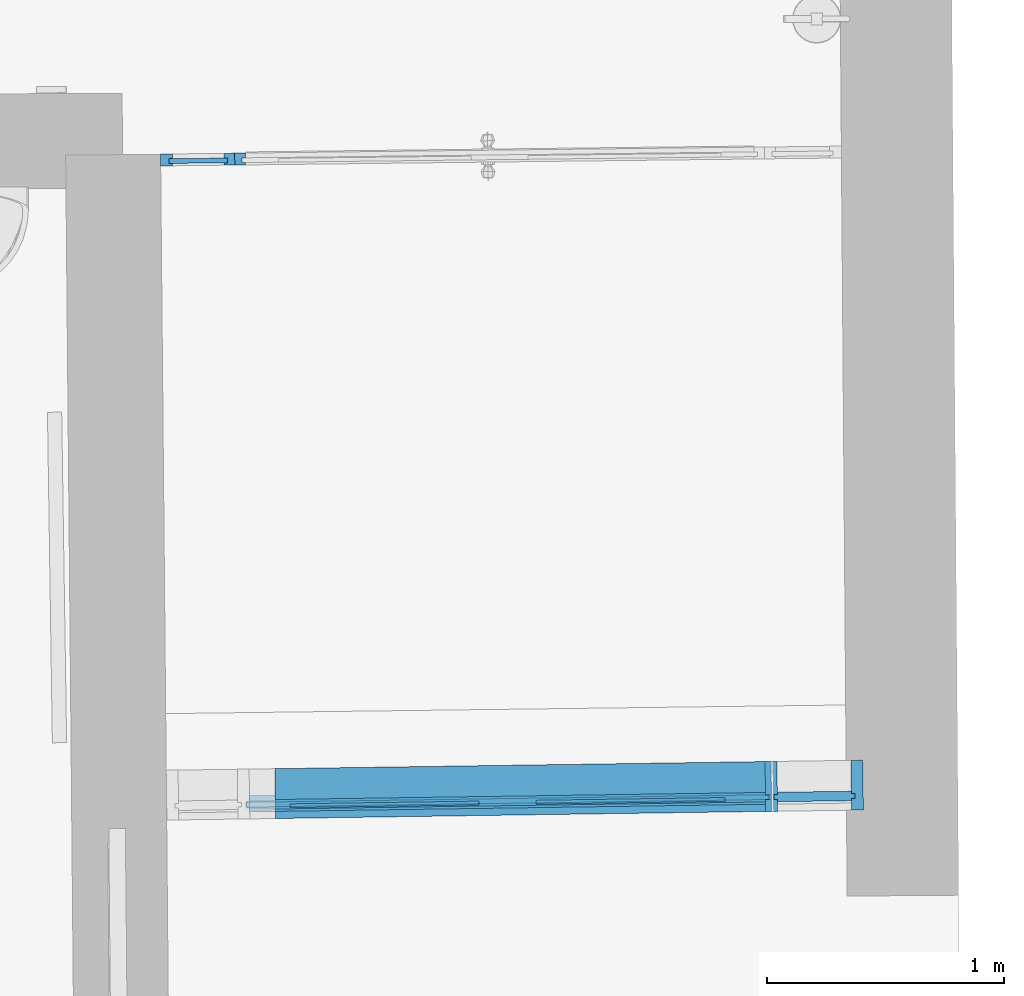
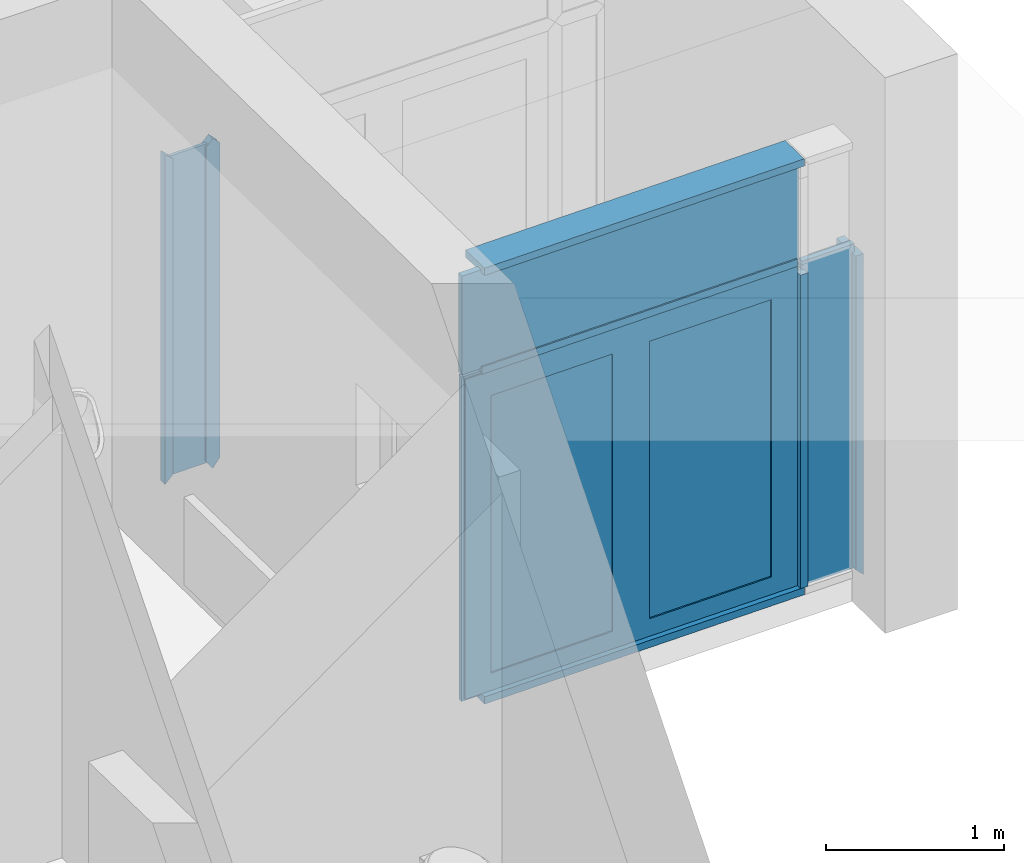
# One storey, part 126 of 196: 12 building element parts, 2 elements without a shape of their own.
"""IFC2X3 building model written with IfcOpenShell, lengths in metres."""

import ifcopenshell
import ifcopenshell.guid

model = None  # the IFC model being written
_history = None  # IfcOwnerHistory: only IFC2X3 demands one
_inside = {}  # id of a spatial element -> (the spatial element, [elements in it])
_under = {}  # id of a project, library or spatial element -> (it, [spatial elements below it])
_declared = {}  # id of a project -> (the project, [libraries it declares])
_typed = {}  # id of a type object -> (the type object, [elements of that type])
_made_of = {}  # id of a material, layer set ... -> (it, [elements and type objects made of it])


def new_model(schema):
    """Start an empty IFC model of exactly this schema.

    Asked for "IFC4X3", IfcOpenShell would pick the latest addendum, in which some entities
    have other attributes; the version numbers below select the first issue.
    IFC2X3 requires an IfcOwnerHistory on every rooted entity: one is made here for all.
    """
    global model, _history
    if schema == "IFC4X3":
        model = ifcopenshell.file(schema_version=(4, 3, 0, 0))
    else:
        model = ifcopenshell.file(schema=schema)
    _inside.clear()
    _under.clear()
    _declared.clear()
    _typed.clear()
    _made_of.clear()
    _history = None
    if model.schema == "IFC2X3":
        org = make("IfcOrganization", Name="unknown")
        user = make(
            "IfcPersonAndOrganization",
            ThePerson=make("IfcPerson", FamilyName="unknown"),
            TheOrganization=org,
        )
        app = make(
            "IfcApplication",
            ApplicationDeveloper=org,
            Version="unknown",
            ApplicationFullName="unknown",
            ApplicationIdentifier="unknown",
        )
        _history = make(
            "IfcOwnerHistory",
            OwningUser=user,
            OwningApplication=app,
            ChangeAction="ADDED",
            CreationDate=0,
        )
    return model


def make(cls, **values):
    """One entity of the class cls with the attributes given. An attribute that is None is left unset."""
    return model.create_entity(
        cls, **{name: value for name, value in values.items() if value is not None}
    )


def entity(cls, *values):
    """Any entity or typed value of the class cls, its attributes in the order of the schema. None: left unset."""
    e = model.create_entity(cls)
    for i, value in enumerate(values):
        if value is not None:
            e[i] = value
    return e


def rooted(cls, **values):
    """An entity with a GlobalId (a new one), such as an element, a storey or a relation."""
    return make(cls, GlobalId=ifcopenshell.guid.new(), OwnerHistory=_history, **values)


def si_unit(unit_type, name, prefix=None):
    """IfcSIUnit, for example si_unit("LENGTHUNIT", "METRE", prefix="MILLI")."""
    return make("IfcSIUnit", UnitType=unit_type, Prefix=prefix, Name=name)


def converted_unit(unit_type, name, factor, base, dimensions=None, offset=None):
    """IfcConversionBasedUnit, such as the inch: factor (a typed value) times the base unit."""
    return make(
        "IfcConversionBasedUnit"
        if offset is None
        else "IfcConversionBasedUnitWithOffset",
        ConversionOffset=offset,
        Dimensions=None
        if dimensions is None
        else entity("IfcDimensionalExponents", *dimensions),
        UnitType=unit_type,
        Name=name,
        ConversionFactor=make(
            "IfcMeasureWithUnit", ValueComponent=factor, UnitComponent=base
        ),
    )


def derived_unit(unit_type, elements):
    """IfcDerivedUnit: a product of units, each with its exponent."""
    return make(
        "IfcDerivedUnit",
        Elements=[
            make("IfcDerivedUnitElement", Unit=unit, Exponent=power)
            for unit, power in elements
        ],
        UnitType=unit_type,
    )


def money_unit(currency):
    """IfcMonetaryUnit."""
    return make("IfcMonetaryUnit", Currency=currency)


def assignment(units):
    """IfcUnitAssignment: the units of a project."""
    return None if units is None else make("IfcUnitAssignment", Units=units)


def point(xyz):
    """IfcCartesianPoint."""
    return None if xyz is None else make("IfcCartesianPoint", Coordinates=xyz)


def direction(xyz):
    """IfcDirection."""
    return None if xyz is None else make("IfcDirection", DirectionRatios=xyz)


def frame(location, z_axis=None, x_axis=None):
    """IfcAxis2Placement3D, a coordinate frame: its origin and axes. An axis left out is left unset."""
    return make(
        "IfcAxis2Placement3D",
        Location=point(location),
        Axis=direction(z_axis),
        RefDirection=direction(x_axis),
    )


def origin_with_axes():
    """The frame at (0, 0, 0) with the z axis (0, 0, 1) and the x axis (1, 0, 0) written out."""
    return frame((0.0, 0.0, 0.0), z_axis=(0.0, 0.0, 1.0), x_axis=(1.0, 0.0, 0.0))


def place(relative_to, where):
    """IfcLocalPlacement: puts the frame where relative to a parent placement (None: the world)."""
    return make(
        "IfcLocalPlacement", PlacementRelTo=relative_to, RelativePlacement=where
    )


def context(
    kind, dimensions, precision=None, world=None, true_north=None, identifier=None
):
    """IfcGeometricRepresentationContext, for example the 3D "Model" context."""
    return make(
        "IfcGeometricRepresentationContext",
        ContextIdentifier=identifier,
        ContextType=kind,
        CoordinateSpaceDimension=dimensions,
        Precision=precision,
        WorldCoordinateSystem=world,
        TrueNorth=true_north,
    )


def subcontext(parent, identifier, kind, view, scale=None):
    """IfcGeometricRepresentationSubContext, for example "Body" below "Model"."""
    return make(
        "IfcGeometricRepresentationSubContext",
        ContextIdentifier=identifier,
        ContextType=kind,
        ParentContext=parent,
        TargetScale=scale,
        TargetView=view,
    )


def project(units=None, contexts=None):
    """IfcProject with its units and contexts."""
    return rooted(
        "IfcProject",
        Name="project",
        RepresentationContexts=contexts,
        UnitsInContext=assignment(units),
    )


def spatial(cls, under=None, at=None, **own):
    """A site, building, storey or space (cls), placed at a placement, below another one or the project."""
    s = rooted(cls, ObjectPlacement=at, **own)
    if under is not None:
        _under.setdefault(under.id(), (under, []))[1].append(s)
    return s


def faces_of(points, faces, orient=None, outer=None):
    """IfcFace entities. A face is a list of loops; a loop is a list of indices into points, from 0.

    orient and outer hold one flag for each loop. By default every Orientation is true, the
    first loop of a face is its IfcFaceOuterBound and the others are IfcFaceBound.
    """
    made = []
    for i, loops in enumerate(faces):
        bounds = []
        for j, loop in enumerate(loops):
            is_outer = j == 0 if outer is None else outer[i][j]
            bounds.append(
                make(
                    "IfcFaceOuterBound" if is_outer else "IfcFaceBound",
                    Bound=make("IfcPolyLoop", Polygon=[points[k] for k in loop]),
                    Orientation=True if orient is None else orient[i][j],
                )
            )
        made.append(make("IfcFace", Bounds=bounds))
    return made


def open_shell(faces, orient=None, outer=None):
    """The faces of one IfcOpenShell. surface_model builds it on its shared points."""
    return ("IfcOpenShell", faces, orient, outer)


def faceted_brep(points, faces, orient=None, outer=None, voids=None):
    """IfcFacetedBrep: a solid bounded by flat faces; with voids (closed shells), ...WithVoids."""
    shared = [point(p) for p in points]
    hull = make("IfcClosedShell", CfsFaces=faces_of(shared, faces, orient, outer))
    if voids is None:
        return make("IfcFacetedBrep", Outer=hull)
    return make(
        "IfcFacetedBrepWithVoids",
        Outer=hull,
        Voids=[
            make(cls, CfsFaces=faces_of(shared, fs, o, b)) for cls, fs, o, b in voids
        ],
    )


def surface_model(cls, points, shells):
    """IfcFaceBasedSurfaceModel or IfcShellBasedSurfaceModel (cls): surfaces that need not close."""
    shared = [point(p) for p in points]
    made = [make(c, CfsFaces=faces_of(shared, fs, o, b)) for c, fs, o, b in shells]
    if cls == "IfcFaceBasedSurfaceModel":
        return make(cls, FbsmFaces=made)
    return make(cls, SbsmBoundary=made)


def shape(context_of_items, identifier, shape_type, items):
    """IfcShapeRepresentation: the items that make up one representation, for example the "Body"."""
    return make(
        "IfcShapeRepresentation",
        ContextOfItems=context_of_items,
        RepresentationIdentifier=identifier,
        RepresentationType=shape_type,
        Items=items,
    )


def material(Name=None, Category=None):
    """IfcMaterial."""
    return make("IfcMaterial", Name=Name, Category=Category)


def made_of(thing, what):
    """Note that an element or type object is made of a material, layer set ...; save() writes the relation."""
    if what is not None:
        _made_of.setdefault(what.id(), (what, []))[1].append(thing)
    return thing


def type_object(cls, material=None, **own):
    """A type object (cls), such as IfcWallType, which elements share."""
    return made_of(rooted(cls, **own), material)


def element(
    cls,
    number,
    at=None,
    inside=None,
    cuts=None,
    type_object=None,
    material=None,
    context=None,
    identifier="Body",
    shape_type=None,
    held_by="IfcProductDefinitionShape",
    body=None,
    shapes=None,
    **own,
):
    """One element of the class cls, such as IfcWall. Its Tag is "e" and its number.

    at: its placement. inside: the storey or other place that contains it. cuts: it is an
    opening in that element (IfcRelVoidsElement). A single representation is given by context,
    identifier, shape_type and body (its items); several are given by shapes. held_by: the class
    of the entity that holds the representations. save() writes the other relations.
    """
    e = rooted(cls, Tag="e%d" % number, ObjectPlacement=at, **own)
    if body is not None:
        shapes = [shape(context, identifier, shape_type, body)]
    if shapes is not None:
        e.Representation = make(held_by, Representations=shapes)
    if inside is not None:
        _inside.setdefault(inside.id(), (inside, []))[1].append(e)
    if cuts is not None:
        rooted(
            "IfcRelVoidsElement", RelatingBuildingElement=cuts, RelatedOpeningElement=e
        )
    if type_object is not None:
        _typed.setdefault(type_object.id(), (type_object, []))[1].append(e)
    return made_of(e, material)


def aggregate(whole, parts):
    """IfcRelAggregates: a whole, such as a stair, and the parts it consists of."""
    return rooted("IfcRelAggregates", RelatingObject=whole, RelatedObjects=parts)


def save(model, path):
    """Write the relations noted so far, then the file.

    IfcRelAggregates (storeys below a building ...), IfcRelContainedInSpatialStructure (elements
    in a storey), IfcRelDefinesByType, IfcRelAssociatesMaterial and IfcRelDeclares: one each for
    every whole, place, type object, material and project.
    """
    for whole, parts in _under.values():
        aggregate(whole, parts)
    for where, things in _inside.values():
        rooted(
            "IfcRelContainedInSpatialStructure",
            RelatedElements=things,
            RelatingStructure=where,
        )
    for kind, things in _typed.values():
        rooted("IfcRelDefinesByType", RelatedObjects=things, RelatingType=kind)
    for what, things in _made_of.values():
        rooted("IfcRelAssociatesMaterial", RelatedObjects=things, RelatingMaterial=what)
    for by, libraries in _declared.values():
        rooted("IfcRelDeclares", RelatingContext=by, RelatedDefinitions=libraries)
    model.write(path)


model = new_model("IFC2X3")

# Units and contexts
model_context = context("Model", 3, precision=1e-05, world=origin_with_axes(), true_north=direction((0.0, 1.0)))
body_context = subcontext(model_context, "Body", "Model", "MODEL_VIEW")
ifc_project = project(units=[si_unit("LENGTHUNIT", "METRE"), si_unit("AREAUNIT", "SQUARE_METRE"), si_unit("VOLUMEUNIT", "CUBIC_METRE"), converted_unit("PLANEANGLEUNIT", "DEGREE", entity("IfcPlaneAngleMeasure", 0.0174532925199), si_unit("PLANEANGLEUNIT", "RADIAN"), dimensions=[0, 0, 0, 0, 0, 0, 0]), money_unit("EUR"), converted_unit("TIMEUNIT", "Year", entity("IfcTimeMeasure", 31556926.0), si_unit("TIMEUNIT", "SECOND"), dimensions=[0, 0, 1, 0, 0, 0, 0]), si_unit("MASSUNIT", "GRAM", prefix="KILO"), si_unit("THERMODYNAMICTEMPERATUREUNIT", "DEGREE_CELSIUS"), si_unit("LUMINOUSINTENSITYUNIT", "LUMEN"), si_unit("ENERGYUNIT", "JOULE", prefix="MEGA"), derived_unit("THERMALCONDUCTANCEUNIT", [(si_unit("POWERUNIT", "WATT"), 1), (si_unit("LENGTHUNIT", "METRE"), -1), (si_unit("THERMODYNAMICTEMPERATUREUNIT", "KELVIN"), -1)]), derived_unit("SPECIFICHEATCAPACITYUNIT", [(si_unit("ENERGYUNIT", "JOULE"), 1), (si_unit("MASSUNIT", "GRAM", prefix="KILO"), -1), (si_unit("THERMODYNAMICTEMPERATUREUNIT", "KELVIN"), -1)]), derived_unit("MASSDENSITYUNIT", [(si_unit("MASSUNIT", "GRAM", prefix="KILO"), 1), (si_unit("VOLUMEUNIT", "CUBIC_METRE"), -1)])], contexts=[model_context])

# Site, building, storey
site_placement = place(None, origin_with_axes())
site = spatial("IfcSite", under=ifc_project, at=site_placement, Name="Gelände", CompositionType="ELEMENT")
building_placement = place(site_placement, origin_with_axes())
building = spatial("IfcBuilding", under=site, at=building_placement, Name="Gebäude", CompositionType="ELEMENT")
storey_placement = place(building_placement, frame((0.0, 0.0, -3.0), z_axis=(0.0, 0.0, 1.0), x_axis=(1.0, 0.0, 0.0)))
storey = spatial("IfcBuildingStorey", under=building, at=storey_placement, Name="KELLERGESCHOSS", CompositionType="ELEMENT", Elevation=-3.0)

# Proxy, building element parts
building_element_proxy_type = type_object("IfcBuildingElementProxyType", Name="Fassadentyp", PredefinedType="NOTDEFINED")
proxy_1_placement = place(storey_placement, frame((-18.3953551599, 39.5909637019, 0.410855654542), z_axis=(0.0, 0.0, 1.0), x_axis=(1.0, 0.0, 0.0)))
proxy_1 = element("IfcBuildingElementProxy", 1, at=proxy_1_placement, inside=storey, type_object=building_element_proxy_type, Name="Fassade-002")
ifc_material_1 = material(Name="53_Metall, Aluminium")
building_element_part_1_placement = place(proxy_1_placement, origin_with_axes())
building_element_part_1 = element("IfcBuildingElementPart", 2, at=building_element_part_1_placement, material=ifc_material_1, Name="53_Metall, Aluminium", context=body_context, shape_type="SurfaceModel", body=[
    surface_model("IfcShellBasedSurfaceModel", [(2.36102338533, 0.0741877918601, 0.0500000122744), (2.28603124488, 0.073102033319, 0.0500000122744), (2.28603124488, 0.073102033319, 2.16780578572), (2.36102338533, 0.0741877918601, 2.24280578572)], [open_shell([[[0, 1, 2, 3]]])]),
    surface_model("IfcShellBasedSurfaceModel", [(0.18663645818, 0.0427063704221, 2.24280578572), (2.36102338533, 0.0741877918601, 2.24280578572), (2.28603124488, 0.073102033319, 2.16780578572), (0.261628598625, 0.0437921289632, 2.16780578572)], [open_shell([[[0, 1, 2, 3]]])]),
    surface_model("IfcShellBasedSurfaceModel", [(0.18663645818, 0.0427063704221, 0.0500000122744), (0.18663645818, 0.0427063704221, 2.24280578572), (0.261628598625, 0.0437921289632, 2.16780578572), (0.261628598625, 0.0437921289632, 0.0500000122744)], [open_shell([[[0, 1, 2, 3]]])]),
    faceted_brep([(2.36102338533, 0.0741877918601, 0.0500000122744), (2.36102338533, 0.0741877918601, 2.24280578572), (2.36196437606, 0.00919460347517, 2.24280578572), (2.36196437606, 0.00919460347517, 0.0500000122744), (2.31102862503, 0.0734639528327, 0.0500000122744), (2.31102862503, 0.0734639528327, 2.19280578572), (2.31196961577, 0.00847076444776, 2.19280578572), (2.31196961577, 0.00847076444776, 0.0500000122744)], [[[0, 1, 2, 3]], [[0, 4, 5, 1]], [[1, 5, 6, 2]], [[3, 2, 6, 7]], [[4, 0, 3, 7]], [[5, 4, 7, 6]]]),
    faceted_brep([(0.18663645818, 0.0427063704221, 2.24280578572), (0.236631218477, 0.0434302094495, 2.19280578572), (0.237572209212, -0.0215629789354, 2.19280578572), (0.187577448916, -0.0222868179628, 2.24280578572), (2.36102338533, 0.0741877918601, 2.24280578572), (2.31102862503, 0.0734639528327, 2.19280578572), (2.31196961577, 0.00847076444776, 2.19280578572), (2.36196437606, 0.00919460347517, 2.24280578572)], [[[0, 1, 2, 3]], [[0, 4, 5, 1]], [[1, 5, 6, 2]], [[3, 2, 6, 7]], [[4, 0, 3, 7]], [[5, 4, 7, 6]]]),
    faceted_brep([(0.18663645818, 0.0427063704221, 0.0500000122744), (0.236631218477, 0.0434302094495, 0.0500000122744), (0.237572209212, -0.0215629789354, 0.0500000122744), (0.187577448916, -0.0222868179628, 0.0500000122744), (0.18663645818, 0.0427063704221, 2.24280578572), (0.236631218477, 0.0434302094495, 2.19280578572), (0.237572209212, -0.0215629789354, 2.19280578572), (0.187577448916, -0.0222868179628, 2.24280578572)], [[[0, 1, 2, 3]], [[0, 4, 5, 1]], [[1, 5, 6, 2]], [[3, 2, 6, 7]], [[4, 0, 3, 7]], [[5, 4, 7, 6]]]),
    faceted_brep([(0.171999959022, 0.0174918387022, 0.0349999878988), (2.3763837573, 0.0494075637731, 0.0349999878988), (2.37681806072, 0.0194107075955, 0.0349999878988), (0.172434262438, -0.0125050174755, 0.0349999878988), (0.186998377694, 0.0177089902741, 0.0500000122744), (2.36138530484, 0.049190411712, 0.0500000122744), (2.36181960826, 0.0191935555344, 0.0500000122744), (0.187432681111, -0.0122878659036, 0.0500000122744)], [[[0, 1, 2, 3]], [[0, 4, 5, 1]], [[1, 5, 6, 2]], [[3, 2, 6, 7]], [[4, 0, 3, 7]], [[5, 4, 7, 6]]]),
    faceted_brep([(2.3763837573, 0.0494075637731, 0.0349999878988), (2.3763837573, 0.0494075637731, 2.2578057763), (2.37681806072, 0.0194107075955, 2.2578057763), (2.37681806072, 0.0194107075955, 0.0349999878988), (2.36138530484, 0.049190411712, 0.0500000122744), (2.36138530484, 0.049190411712, 2.24280578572), (2.36181960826, 0.0191935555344, 2.24280578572), (2.36181960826, 0.0191935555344, 0.0500000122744)], [[[0, 1, 2, 3]], [[0, 4, 5, 1]], [[1, 5, 6, 2]], [[3, 2, 6, 7]], [[4, 0, 3, 7]], [[5, 4, 7, 6]]]),
    faceted_brep([(2.3763837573, 0.0494075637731, 2.2578057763), (0.171999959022, 0.0174918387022, 2.2578057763), (0.172434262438, -0.0125050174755, 2.2578057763), (2.37681806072, 0.0194107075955, 2.2578057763), (2.36138530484, 0.049190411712, 2.24280578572), (0.186998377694, 0.0177089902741, 2.24280578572), (0.187432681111, -0.0122878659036, 2.24280578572), (2.36181960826, 0.0191935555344, 2.24280578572)], [[[0, 1, 2, 3]], [[0, 4, 5, 1]], [[1, 5, 6, 2]], [[3, 2, 6, 7]], [[4, 0, 3, 7]], [[5, 4, 7, 6]]]),
    faceted_brep([(0.171999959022, 0.0174918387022, 2.2578057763), (0.171999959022, 0.0174918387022, 0.0349999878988), (0.172434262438, -0.0125050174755, 0.0349999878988), (0.172434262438, -0.0125050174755, 2.2578057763), (0.186998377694, 0.0177089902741, 2.24280578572), (0.186998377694, 0.0177089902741, 0.0500000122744), (0.187432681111, -0.0122878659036, 0.0500000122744), (0.187432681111, -0.0122878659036, 2.24280578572)], [[[0, 1, 2, 3]], [[0, 4, 5, 1]], [[1, 5, 6, 2]], [[3, 2, 6, 7]], [[4, 0, 3, 7]], [[5, 4, 7, 6]]]),
    faceted_brep([(0.356618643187, 0.0451674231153, 0.170000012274), (0.356618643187, 0.0451674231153, 2.07280578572), (0.357559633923, -0.0198257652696, 2.07280578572), (0.357559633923, -0.0198257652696, 0.170000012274), (0.236631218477, 0.0434302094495, 0.0500000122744), (0.236631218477, 0.0434302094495, 2.19280578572), (0.237572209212, -0.0215629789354, 2.19280578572), (0.237572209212, -0.0215629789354, 0.0500000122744)], [[[0, 1, 2, 3]], [[0, 4, 5, 1]], [[1, 5, 6, 2]], [[3, 2, 6, 7]], [[4, 0, 3, 7]], [[5, 4, 7, 6]]]),
    faceted_brep([(1.27382992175, 0.0584470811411, 0.0500000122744), (1.27382992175, 0.0584470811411, 2.19280578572), (1.27477091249, -0.0065461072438, 2.19280578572), (1.27477091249, -0.0065461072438, 0.0500000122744), (1.15384249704, 0.0567098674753, 0.170000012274), (1.15384249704, 0.0567098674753, 2.07280578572), (1.15478348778, -0.0082833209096, 2.07280578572), (1.15478348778, -0.0082833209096, 0.170000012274)], [[[0, 1, 2, 3]], [[0, 4, 5, 1]], [[1, 5, 6, 2]], [[3, 2, 6, 7]], [[4, 0, 3, 7]], [[5, 4, 7, 6]]]),
    faceted_brep([(1.27382992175, 0.0584470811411, 0.0500000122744), (1.15384249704, 0.0567098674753, 0.170000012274), (1.15478348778, -0.0082833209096, 0.170000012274), (1.27477091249, -0.0065461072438, 0.0500000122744), (0.236631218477, 0.0434302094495, 0.0500000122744), (0.356618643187, 0.0451674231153, 0.170000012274), (0.357559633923, -0.0198257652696, 0.170000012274), (0.237572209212, -0.0215629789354, 0.0500000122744)], [[[0, 1, 2, 3]], [[0, 4, 5, 1]], [[1, 5, 6, 2]], [[3, 2, 6, 7]], [[4, 0, 3, 7]], [[5, 4, 7, 6]]]),
    faceted_brep([(0.236631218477, 0.0434302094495, 2.19280578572), (0.356618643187, 0.0451674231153, 2.07280578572), (0.357559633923, -0.0198257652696, 2.07280578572), (0.237572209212, -0.0215629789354, 2.19280578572), (1.27382992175, 0.0584470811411, 2.19280578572), (1.15384249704, 0.0567098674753, 2.07280578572), (1.15478348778, -0.0082833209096, 2.07280578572), (1.27477091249, -0.0065461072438, 2.19280578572)], [[[0, 1, 2, 3]], [[0, 4, 5, 1]], [[1, 5, 6, 2]], [[3, 2, 6, 7]], [[4, 0, 3, 7]], [[5, 4, 7, 6]]]),
    faceted_brep([(1.39381734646, 0.0601842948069, 0.170000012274), (1.39381734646, 0.0601842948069, 2.07280578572), (1.3947583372, -0.004808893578, 2.07280578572), (1.3947583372, -0.004808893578, 0.170000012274), (1.27382992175, 0.0584470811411, 0.0500000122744), (1.27382992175, 0.0584470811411, 2.19280578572), (1.27477091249, -0.0065461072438, 2.19280578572), (1.27477091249, -0.0065461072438, 0.0500000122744)], [[[0, 1, 2, 3]], [[0, 4, 5, 1]], [[1, 5, 6, 2]], [[3, 2, 6, 7]], [[4, 0, 3, 7]], [[5, 4, 7, 6]]]),
    faceted_brep([(2.31102862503, 0.0734639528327, 0.0500000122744), (2.31102862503, 0.0734639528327, 2.19280578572), (2.31196961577, 0.00847076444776, 2.19280578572), (2.31196961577, 0.00847076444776, 0.0500000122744), (2.19104120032, 0.0717267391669, 0.170000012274), (2.19104120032, 0.0717267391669, 2.07280578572), (2.19198219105, 0.00673355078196, 2.07280578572), (2.19198219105, 0.00673355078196, 0.170000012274)], [[[0, 1, 2, 3]], [[0, 4, 5, 1]], [[1, 5, 6, 2]], [[3, 2, 6, 7]], [[4, 0, 3, 7]], [[5, 4, 7, 6]]]),
    faceted_brep([(2.31102862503, 0.0734639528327, 0.0500000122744), (2.19104120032, 0.0717267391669, 0.170000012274), (2.19198219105, 0.00673355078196, 0.170000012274), (2.31196961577, 0.00847076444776, 0.0500000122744), (1.27382992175, 0.0584470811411, 0.0500000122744), (1.39381734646, 0.0601842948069, 0.170000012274), (1.3947583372, -0.004808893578, 0.170000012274), (1.27477091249, -0.0065461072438, 0.0500000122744)], [[[0, 1, 2, 3]], [[0, 4, 5, 1]], [[1, 5, 6, 2]], [[3, 2, 6, 7]], [[4, 0, 3, 7]], [[5, 4, 7, 6]]]),
    faceted_brep([(1.27382992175, 0.0584470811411, 2.19280578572), (1.39381734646, 0.0601842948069, 2.07280578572), (1.3947583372, -0.004808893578, 2.07280578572), (1.27477091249, -0.0065461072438, 2.19280578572), (2.31102862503, 0.0734639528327, 2.19280578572), (2.19104120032, 0.0717267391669, 2.07280578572), (2.19198219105, 0.00673355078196, 2.07280578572), (2.31196961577, 0.00847076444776, 2.19280578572)], [[[0, 1, 2, 3]], [[0, 4, 5, 1]], [[1, 5, 6, 2]], [[3, 2, 6, 7]], [[4, 0, 3, 7]], [[5, 4, 7, 6]]]),
])
ifc_material_2 = material(Name="45_Glas, Normalglas")
building_element_part_2_placement = place(proxy_1_placement, origin_with_axes())
building_element_part_2 = element("IfcBuildingElementPart", 3, at=building_element_part_2_placement, material=ifc_material_2, Name="45_Glas, Normalglas", context=body_context, shape_type="Brep", body=[
    faceted_brep([(0.357183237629, 0.0061715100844, 0.170000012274), (1.15440709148, 0.0177139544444, 0.170000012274), (1.15463871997, 0.00171563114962, 0.170000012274), (0.357414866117, -0.00982681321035, 0.170000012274), (0.357183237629, 0.0061715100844, 2.07280578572), (1.15440709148, 0.0177139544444, 2.07280578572), (1.15463871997, 0.00171563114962, 2.07280578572), (0.357414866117, -0.00982681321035, 2.07280578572)], [[[0, 1, 2, 3]], [[0, 4, 5, 1]], [[1, 5, 6, 2]], [[3, 2, 6, 7]], [[4, 0, 3, 7]], [[5, 4, 7, 6]]]),
    faceted_brep([(1.39438194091, 0.021188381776, 0.170000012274), (2.19160579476, 0.0327308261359, 0.170000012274), (2.19183742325, 0.0167325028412, 0.170000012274), (1.39461356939, 0.00519005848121, 0.170000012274), (1.39438194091, 0.021188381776, 2.07280578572), (2.19160579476, 0.0327308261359, 2.07280578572), (2.19183742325, 0.0167325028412, 2.07280578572), (1.39461356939, 0.00519005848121, 2.07280578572)], [[[0, 1, 2, 3]], [[0, 4, 5, 1]], [[1, 5, 6, 2]], [[3, 2, 6, 7]], [[4, 0, 3, 7]], [[5, 4, 7, 6]]]),
])
building_element_part_3_placement = place(proxy_1_placement, origin_with_axes())
building_element_part_3 = element("IfcBuildingElementPart", 4, at=building_element_part_3_placement, material=ifc_material_2, Name="45_Glas, Normalglas", context=body_context, shape_type="Brep", body=[
    faceted_brep([(2.73800678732, 0.0596437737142, 2.25780579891), (2.39630927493, 0.0546965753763, 2.25780579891), (2.39688834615, 0.0147007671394, 2.25780579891), (2.73858585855, 0.0196479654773, 2.25780579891), (2.73800678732, 0.0596437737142, 2.20000001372), (2.73800678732, 0.0596437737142, 0.0350000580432), (2.39630927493, 0.0546965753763, 0.0349999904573), (2.39630927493, 0.0546965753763, 2.20000001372), (2.39688834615, 0.0147007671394, 2.20000001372), (2.39688834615, 0.0147007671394, 0.0349999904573), (2.73858585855, 0.0196479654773, 0.0350000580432), (2.73858585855, 0.0196479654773, 2.20000001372)], [[[0, 1, 2, 3]], [[0, 4, 5, 6, 7, 1]], [[1, 7, 8, 2]], [[3, 2, 8, 9, 10, 11]], [[4, 0, 3, 11]], [[5, 4, 11, 10]], [[6, 5, 10, 9]], [[7, 6, 9, 8]]]),
])
building_element_part_4_placement = place(proxy_1_placement, origin_with_axes())
building_element_part_4 = element("IfcBuildingElementPart", 5, at=building_element_part_4_placement, material=ifc_material_2, Name="45_Glas, Normalglas", context=body_context, shape_type="Brep", body=[
    faceted_brep([(2.37631134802, 0.0544070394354, 2.95414428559), (0.295387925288, 0.0242788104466, 2.95414435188), (0.29596699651, -0.0157169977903, 2.95414435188), (2.37689041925, 0.0144112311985, 2.95414428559), (2.37631134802, 0.0544070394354, 2.85999999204), (2.37631134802, 0.0544070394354, 2.27780579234), (0.295387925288, 0.0242788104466, 2.27780579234), (0.17192756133, 0.0224913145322, 2.27780579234), (0.17192756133, 0.0224913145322, 2.85999999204), (0.17192756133, 0.0224913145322, 2.95414435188), (0.172506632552, -0.0175044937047, 2.95414435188), (0.172506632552, -0.0175044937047, 2.85999999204), (0.172506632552, -0.0175044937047, 2.27780579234), (0.29596699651, -0.0157169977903, 2.27780579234), (2.37689041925, 0.0144112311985, 2.27780579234), (2.37689041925, 0.0144112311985, 2.85999999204)], [[[0, 1, 2, 3]], [[0, 4, 5, 6, 7, 8, 9, 1]], [[1, 9, 10, 2]], [[3, 2, 10, 11, 12, 13, 14, 15]], [[4, 0, 3, 15]], [[5, 4, 15, 14]], [[6, 5, 14, 13]], [[7, 6, 13, 12]], [[8, 7, 12, 11]], [[9, 8, 11, 10]]]),
])
building_element_part_5_placement = place(proxy_1_placement, origin_with_axes())
building_element_part_5 = element("IfcBuildingElementPart", 6, at=building_element_part_5_placement, material=ifc_material_1, Name="53_Metall, Aluminium", context=body_context, shape_type="Brep", body=[
    faceted_brep([(2.38645507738, 0.0445528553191, 0.0350000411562), (2.38674461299, 0.0245549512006, 0.0350000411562), (2.38674461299, 0.0245549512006, 0.0500000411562), (2.38746845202, -0.0254398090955, 0.0500000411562), (2.38746845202, -0.0254398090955, 4.11561846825e-08), (2.3844283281, 0.184538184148, 4.11561846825e-08), (2.3844283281, 0.184538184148, 0.0500000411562), (2.38645507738, 0.0445528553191, 0.0500000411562), (0.295532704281, 0.0142798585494, 0.0350000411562), (0.295822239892, -0.00571804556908, 0.0350000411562), (0.295822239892, -0.00571804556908, 0.0500000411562), (0.29654607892, -0.0557128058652, 0.0500000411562), (0.29654607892, -0.0557128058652, 4.11561846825e-08), (0.293505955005, 0.154265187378, 4.11561846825e-08), (0.293505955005, 0.154265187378, 0.0500000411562), (0.295532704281, 0.0142798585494, 0.0500000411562)], [[[0, 1, 2, 3, 4, 5, 6, 7]], [[1, 0, 8, 9]], [[10, 2, 1, 9]], [[2, 10, 11, 3]], [[12, 4, 3, 11]], [[13, 5, 4, 12]], [[14, 6, 5, 13]], [[15, 7, 6, 14]], [[0, 7, 15, 8]], [[8, 15, 14, 13, 12, 11, 10, 9]]]),
])
building_element_part_6_placement = place(proxy_1_placement, origin_with_axes())
building_element_part_6 = element("IfcBuildingElementPart", 7, at=building_element_part_6_placement, material=ifc_material_1, Name="53_Metall, Aluminium", context=body_context, shape_type="Brep", body=[
    faceted_brep([(2.73815154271, 0.0496448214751, 2.20000001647), (2.73844107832, 0.0296469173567, 2.20000001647), (2.72344265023, 0.0294297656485, 2.20000001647), (2.72416648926, -0.0205649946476, 2.20000001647), (2.77416124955, -0.0198411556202, 2.20000001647), (2.77112112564, 0.190136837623, 2.20000001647), (2.72112636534, 0.189412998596, 2.20000001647), (2.72315311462, 0.0494276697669, 2.20000001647), (2.73815154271, 0.0496448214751, 0.0350000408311), (2.73844107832, 0.0296469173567, 0.0350000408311), (2.72344265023, 0.0294297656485, 0.0500000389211), (2.72416648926, -0.0205649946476, 0.0500000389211), (2.77416124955, -0.0198411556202, 4.52877650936e-08), (2.77112112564, 0.190136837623, 4.5287761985e-08), (2.72112636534, 0.189412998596, 0.0500000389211), (2.72315311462, 0.0494276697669, 0.0500000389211)], [[[0, 1, 2, 3, 4, 5, 6, 7]], [[1, 0, 8, 9]], [[10, 2, 1, 9]], [[2, 10, 11, 3]], [[4, 3, 11, 12]], [[5, 4, 12, 13]], [[6, 5, 13, 14]], [[15, 7, 6, 14]], [[0, 7, 15, 8]], [[8, 15, 14, 13, 12, 11, 10, 9]]]),
])
building_element_part_7_placement = place(proxy_1_placement, origin_with_axes())
building_element_part_7 = element("IfcBuildingElementPart", 8, at=building_element_part_7_placement, material=ifc_material_1, Name="53_Metall, Aluminium", context=body_context, shape_type="Brep", body=[
    faceted_brep([(0.295532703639, 0.01427985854, 2.95414427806), (0.29582223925, -0.00571804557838, 2.95414427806), (0.29582223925, -0.00571804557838, 2.93914427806), (0.296546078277, -0.0557128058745, 2.93914427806), (0.296546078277, -0.0557128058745, 2.98914427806), (0.293505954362, 0.154265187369, 2.98914427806), (0.293505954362, 0.154265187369, 2.93914427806), (0.295532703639, 0.01427985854, 2.93914427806), (2.38645505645, 0.0445528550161, 2.95414427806), (2.38674459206, 0.0245549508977, 2.95414427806), (2.38674459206, 0.0245549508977, 2.93914427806), (2.38746843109, -0.0254398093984, 2.93914427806), (2.38746843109, -0.0254398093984, 2.98914427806), (2.38442830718, 0.184538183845, 2.98914427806), (2.38442830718, 0.184538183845, 2.93914427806), (2.38645505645, 0.0445528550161, 2.93914427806)], [[[0, 1, 2, 3, 4, 5, 6, 7]], [[1, 0, 8, 9]], [[10, 2, 1, 9]], [[2, 10, 11, 3]], [[12, 4, 3, 11]], [[13, 5, 4, 12]], [[14, 6, 5, 13]], [[15, 7, 6, 14]], [[0, 7, 15, 8]], [[8, 15, 14, 13, 12, 11, 10, 9]]]),
])
building_element_part_8_placement = place(proxy_1_placement, origin_with_axes())
building_element_part_8 = element("IfcBuildingElementPart", 9, at=building_element_part_8_placement, material=ifc_material_1, Name="53_Metall, Aluminium", context=body_context, shape_type="Brep", body=[
    faceted_brep([(2.39645402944, 0.0446976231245, 2.19999997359), (2.41145245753, 0.0449147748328, 2.19999997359), (2.40942570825, 0.184900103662, 2.19999997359), (2.35943094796, 0.184176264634, 2.19999997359), (2.36145769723, 0.0441909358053, 2.19999997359), (2.37645612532, 0.0444080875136, 2.19999997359), (2.37674566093, 0.0244101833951, 2.19999997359), (2.36174723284, 0.0241930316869, 2.19999997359), (2.36247107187, -0.0258017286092, 2.19999997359), (2.41246583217, -0.0250778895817, 2.19999997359), (2.41174199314, 0.0249168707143, 2.19999997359), (2.39674356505, 0.0246997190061, 2.19999997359), (2.39645402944, 0.0446976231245, 0.0499999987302), (2.41145245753, 0.0449147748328, 0.0499999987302), (2.40942570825, 0.184900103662, 0.0500000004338), (2.35943094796, 0.184176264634, 0.0500000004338), (2.36145769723, 0.0441909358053, 0.0499999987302), (2.37645612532, 0.0444080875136, 0.0499999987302), (2.37674566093, 0.0244101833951, 0.0499999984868), (2.36174723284, 0.0241930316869, 0.0499999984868), (2.36247107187, -0.0258017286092, 0.0499999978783), (2.41246583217, -0.0250778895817, 0.0499999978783), (2.41174199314, 0.0249168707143, 0.0499999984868), (2.39674356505, 0.0246997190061, 0.0499999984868)], [[[0, 1, 2, 3, 4, 5, 6, 7, 8, 9, 10, 11]], [[1, 0, 12, 13]], [[1, 13, 14, 2]], [[2, 14, 15, 3]], [[4, 3, 15, 16]], [[4, 16, 17, 5]], [[5, 17, 18, 6]], [[7, 6, 18, 19]], [[19, 20, 8, 7]], [[8, 20, 21, 9]], [[22, 10, 9, 21]], [[11, 10, 22, 23]], [[0, 11, 23, 12]], [[23, 22, 21, 20, 19, 18, 17, 16, 15, 14, 13, 12]]]),
])
building_element_part_9_placement = place(proxy_1_placement, origin_with_axes())
building_element_part_9 = element("IfcBuildingElementPart", 10, at=building_element_part_9_placement, material=ifc_material_1, Name="53_Metall, Aluminium", context=body_context, shape_type="Brep", body=[
    faceted_brep([(2.36145769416, 0.0441909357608, 2.25780579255), (2.36145769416, 0.0441909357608, 2.24280579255), (2.35943094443, 0.184176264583, 2.24280579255), (2.35943094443, 0.184176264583, 2.29280579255), (2.36145769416, 0.0441909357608, 2.29280579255), (2.36145769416, 0.0441909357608, 2.27780579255), (2.36174722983, 0.0241930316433, 2.27780579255), (2.36174722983, 0.0241930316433, 2.29280579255), (2.36203676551, 0.00419512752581, 2.29280579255), (2.36203676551, 0.00419512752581, 2.24280579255), (2.36174722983, 0.0241930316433, 2.24280579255), (2.36174722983, 0.0241930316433, 2.25780579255), (0.295532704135, 0.0142798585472, 2.25780579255), (0.295532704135, 0.0142798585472, 2.24280579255), (0.293505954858, 0.154265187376, 2.24280579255), (0.293505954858, 0.154265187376, 2.29280579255), (0.295532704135, 0.0142798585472, 2.29280579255), (0.295532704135, 0.0142798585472, 2.27780579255), (0.295822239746, -0.00571804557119, 2.27780579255), (0.295822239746, -0.00571804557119, 2.29280579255), (0.296111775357, -0.0257159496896, 2.29280579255), (0.296111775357, -0.0257159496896, 2.24280579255), (0.295822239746, -0.00571804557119, 2.24280579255), (0.295822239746, -0.00571804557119, 2.25780579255)], [[[0, 1, 2, 3, 4, 5, 6, 7, 8, 9, 10, 11]], [[1, 0, 12, 13]], [[1, 13, 14, 2]], [[3, 2, 14, 15]], [[4, 3, 15, 16]], [[4, 16, 17, 5]], [[5, 17, 18, 6]], [[7, 6, 18, 19]], [[19, 20, 8, 7]], [[9, 8, 20, 21]], [[22, 10, 9, 21]], [[11, 10, 22, 23]], [[0, 11, 23, 12]], [[23, 22, 21, 20, 19, 18, 17, 16, 15, 14, 13, 12]]]),
])
aggregate(proxy_1, [building_element_part_1, building_element_part_2, building_element_part_3, building_element_part_4, building_element_part_5, building_element_part_6, building_element_part_7, building_element_part_8, building_element_part_9])

proxy_2_placement = place(storey_placement, frame((-17.1540826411, 42.3223141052, 0.417602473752), z_axis=(0.0, 0.0, 1.0), x_axis=(1.0, 0.0, 0.0)))
proxy_2 = element("IfcBuildingElementProxy", 11, at=proxy_2_placement, inside=storey, type_object=building_element_proxy_type, Name="Fassade-002")
building_element_part_10_placement = place(proxy_2_placement, origin_with_axes())
building_element_part_10 = element("IfcBuildingElementPart", 12, at=building_element_part_10_placement, material=ifc_material_2, Name="45_Glas, Normalglas", context=body_context, shape_type="Brep", body=[
    faceted_brep([(-1.14683214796, -0.00341933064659, 2.23267449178), (-1.39414708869, -0.00631336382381, 2.23267449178), (-1.39391306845, -0.0263119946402, 2.23267449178), (-1.14659812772, -0.0234179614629, 2.23267449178), (-1.14683214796, -0.00341933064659, 0.0450000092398), (-1.39414708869, -0.00631336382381, 0.0450000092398), (-1.39391306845, -0.0263119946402, 0.0450000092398), (-1.14659812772, -0.0234179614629, 0.0450000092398)], [[[0, 1, 2, 3]], [[0, 4, 5, 1]], [[1, 5, 6, 2]], [[3, 2, 6, 7]], [[4, 0, 3, 7]], [[5, 4, 7, 6]]]),
])
building_element_part_11_placement = place(proxy_2_placement, origin_with_axes())
building_element_part_11 = element("IfcBuildingElementPart", 13, at=building_element_part_11_placement, material=ifc_material_1, Name="53_Metall, Aluminium", context=body_context, shape_type="Brep", body=[
    faceted_brep([(-1.39414708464, -0.00631336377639, 2.23117449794), (-1.37914811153, -0.00613784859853, 2.21767449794), (-1.37938213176, 0.0138607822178, 2.21767449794), (-1.4293787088, 0.0132757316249, 2.26267449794), (-1.42879365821, -0.0367208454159, 2.26267449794), (-1.37879708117, -0.036135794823, 2.21767449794), (-1.37891409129, -0.0261364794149, 2.21767449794), (-1.3939130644, -0.0263119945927, 2.23117449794), (-1.39414708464, -0.00631336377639, 0.035), (-1.37914811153, -0.00613784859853, 0.05), (-1.37938213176, 0.0138607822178, 0.05), (-1.4293787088, 0.0132757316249, 0.0), (-1.42879365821, -0.0367208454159, 0.0), (-1.37879708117, -0.036135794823, 0.05), (-1.37891409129, -0.0261364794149, 0.05), (-1.3939130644, -0.0263119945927, 0.035)], [[[0, 1, 2, 3, 4, 5, 6, 7]], [[0, 8, 9, 1]], [[9, 10, 2, 1]], [[3, 2, 10, 11]], [[4, 3, 11, 12]], [[5, 4, 12, 13]], [[6, 5, 13, 14]], [[14, 15, 7, 6]], [[7, 15, 8, 0]], [[8, 15, 14, 13, 12, 11, 10, 9]]]),
])
building_element_part_12_placement = place(proxy_2_placement, origin_with_axes())
building_element_part_12 = element("IfcBuildingElementPart", 14, at=building_element_part_12_placement, material=ifc_material_1, Name="53_Metall, Aluminium", context=body_context, shape_type="Brep", body=[
    faceted_brep([(-1.08683626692, -0.00271727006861, 2.23267449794), (-1.0718372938, -0.00254175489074, 2.21767449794), (-1.07207131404, 0.0174568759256, 2.21767449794), (-1.11706823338, 0.016930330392, 2.26267449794), (-1.11648318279, -0.0330662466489, 2.26267449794), (-1.07148626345, -0.0325397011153, 2.21767449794), (-1.07160327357, -0.0225403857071, 2.21767449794), (-1.08660224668, -0.022715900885, 2.23267449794), (-1.08683626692, -0.00271727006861, 0.04), (-1.0718372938, -0.00254175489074, 0.06), (-1.07207131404, 0.0174568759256, 0.06), (-1.11706823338, 0.016930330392, 0.0), (-1.16206515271, 0.0164037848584, 0.06), (-1.16206515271, 0.0164037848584, 2.21767449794), (-1.16183113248, -0.00359484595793, 2.21767449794), (-1.14683215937, -0.00341933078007, 2.23267449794), (-1.14659813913, -0.0234179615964, 2.23267449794), (-1.16159711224, -0.0235934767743, 2.21767449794), (-1.16148010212, -0.0335927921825, 2.21767449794), (-1.11648318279, -0.0330662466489, 0.0), (-1.07148626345, -0.0325397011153, 0.06), (-1.16148010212, -0.0335927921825, 0.06), (-1.07160327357, -0.0225403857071, 0.06), (-1.08660224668, -0.022715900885, 0.04), (-1.16159711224, -0.0235934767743, 0.06), (-1.14659813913, -0.0234179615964, 0.04), (-1.14683215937, -0.00341933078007, 0.04), (-1.16183113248, -0.00359484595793, 0.06)], [[[0, 1, 2, 3, 4, 5, 6, 7]], [[1, 0, 8, 9]], [[1, 9, 10, 2]], [[11, 12, 13, 3, 2, 10]], [[3, 13, 14, 15, 16, 17, 18, 4]], [[19, 20, 5, 4, 18, 21]], [[22, 6, 5, 20]], [[7, 6, 22, 23]], [[0, 7, 23, 8]], [[23, 22, 20, 19, 11, 10, 9, 8]], [[21, 24, 25, 26, 27, 12, 11, 19]], [[14, 13, 12, 27]], [[14, 27, 26, 15]], [[15, 26, 25, 16]], [[17, 16, 25, 24]], [[24, 21, 18, 17]]]),
])
aggregate(proxy_2, [building_element_part_10, building_element_part_11, building_element_part_12])

save(model, "model.ifc")
